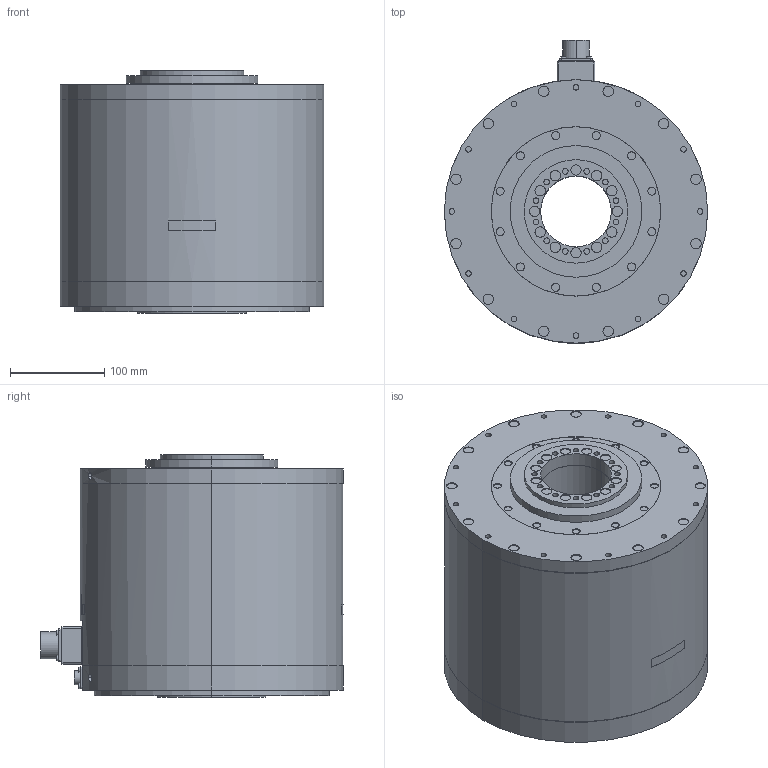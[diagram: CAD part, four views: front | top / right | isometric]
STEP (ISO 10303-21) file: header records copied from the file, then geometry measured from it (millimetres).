
FILE_DESCRIPTION (( 'STEP AP203' ), '1' );
FILE_NAME ('sgm7f_1am_a1_.STEP', '2016-08-19T10:58:42', ( '' ), ( '' ), 'SwSTEP 2.0', 'SolidWorks 2010', '' );
FILE_SCHEMA (( 'CONFIG_CONTROL_DESIGN' ));
Length unit declared in the file: millimetre
Products named in the file (1): sgm7f_1am_a1_
Bounding box: 280 x 322 x 257.5 mm (x, y, z)
Volume: 13652273.9 mm3; surface area: 435517.5 mm2
Topology: 1 solids, 1 shells, 536 faces, 1134 edges, 756 vertices
Faces by surface type: cylinder 324, plane 207, bspline 5
Entity records: 15359 total; most frequent: CARTESIAN_POINT 3062, DIRECTION 2830, ORIENTED_EDGE 2268, AXIS2_PLACEMENT_3D 1188, EDGE_CURVE 1134, VERTEX_POINT 756, EDGE_LOOP 694, CIRCLE 656
